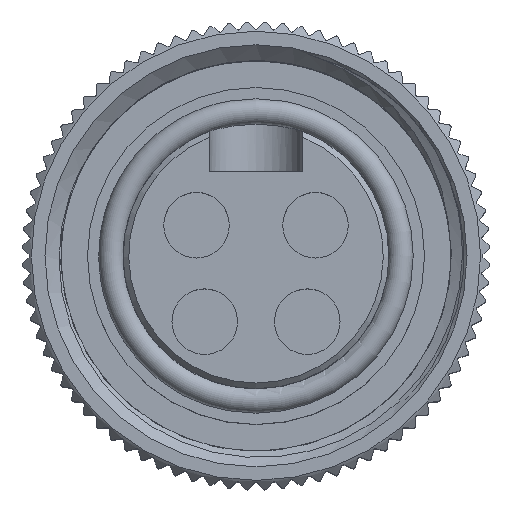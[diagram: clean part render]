
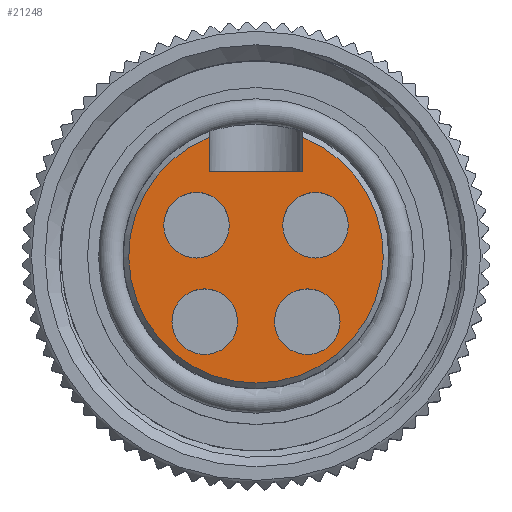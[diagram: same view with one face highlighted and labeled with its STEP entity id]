
A CAD part, top view. The second image highlights one B-rep face of the part: STEP entity #21248.
In plain terms, the highlighted planar face has unit normal (0, 0, 1).
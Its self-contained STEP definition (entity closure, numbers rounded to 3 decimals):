
#165 = VERTEX_POINT ( 'NONE', #5482 ) ;
#442 = VERTEX_POINT ( 'NONE', #2392 ) ;
#667 = CARTESIAN_POINT ( 'NONE',  ( -3.18, -0.12, 0. ) ) ;
#745 = CARTESIAN_POINT ( 'NONE',  ( 2.74, -5.27, 0. ) ) ;
#975 = CIRCLE ( 'NONE', #7828, 1.75 ) ;
#1098 = EDGE_CURVE ( 'NONE', #8888, #20153, #17066, .T. ) ;
#1123 = VECTOR ( 'NONE', #17652, 1000. ) ;
#2193 = CARTESIAN_POINT ( 'NONE',  ( 3.18, 1.63, 0. ) ) ;
#2392 = CARTESIAN_POINT ( 'NONE',  ( -2.74, -5.27, 0. ) ) ;
#2441 = EDGE_LOOP ( 'NONE', ( #12268 ) ) ;
#2719 = CARTESIAN_POINT ( 'NONE',  ( -2.5, 4.5, 0. ) ) ;
#3203 = AXIS2_PLACEMENT_3D ( 'NONE', #4580, #22542, #13314 ) ;
#3246 = DIRECTION ( 'NONE',  ( 0., 0., 1. ) ) ;
#3522 = LINE ( 'NONE', #22521, #12182 ) ;
#3920 = DIRECTION ( 'NONE',  ( 0., 0., 1. ) ) ;
#4096 = EDGE_LOOP ( 'NONE', ( #7625, #19778, #14727, #4191 ) ) ;
#4191 = ORIENTED_EDGE ( 'NONE', *, *, #13123, .F. ) ;
#4218 = ORIENTED_EDGE ( 'NONE', *, *, #18591, .F. ) ;
#4369 = VECTOR ( 'NONE', #9574, 1000. ) ;
#4580 = CARTESIAN_POINT ( 'NONE',  ( 0., 6.8, 0. ) ) ;
#4886 = CARTESIAN_POINT ( 'NONE',  ( -2.5, 4.5, 0. ) ) ;
#5277 = EDGE_LOOP ( 'NONE', ( #19697 ) ) ;
#5353 = DIRECTION ( 'NONE',  ( 0., 0., 1. ) ) ;
#5482 = CARTESIAN_POINT ( 'NONE',  ( 2.5, 4.5, 0. ) ) ;
#5552 = CARTESIAN_POINT ( 'NONE',  ( -2.5, 6.324, 0. ) ) ;
#5765 = AXIS2_PLACEMENT_3D ( 'NONE', #10753, #5353, #23022 ) ;
#5932 = DIRECTION ( 'NONE',  ( 0., 0., 1. ) ) ;
#6445 = PLANE ( 'NONE',  #3203 ) ;
#6493 = CIRCLE ( 'NONE', #20525, 1.75 ) ;
#7237 = FACE_BOUND ( 'NONE', #2441, .T. ) ;
#7625 = ORIENTED_EDGE ( 'NONE', *, *, #12542, .F. ) ;
#7804 = DIRECTION ( 'NONE',  ( 0., -1., 0. ) ) ;
#7828 = AXIS2_PLACEMENT_3D ( 'NONE', #19436, #15817, #12011 ) ;
#8888 = VERTEX_POINT ( 'NONE', #5552 ) ;
#9263 = AXIS2_PLACEMENT_3D ( 'NONE', #16566, #5932, #7804 ) ;
#9559 = EDGE_LOOP ( 'NONE', ( #10293 ) ) ;
#9574 = DIRECTION ( 'NONE',  ( 1., 0., 0. ) ) ;
#10293 = ORIENTED_EDGE ( 'NONE', *, *, #11140, .F. ) ;
#10753 = CARTESIAN_POINT ( 'NONE',  ( 0., 0., 0. ) ) ;
#11082 = VERTEX_POINT ( 'NONE', #745 ) ;
#11140 = EDGE_CURVE ( 'NONE', #442, #442, #975, .T. ) ;
#11236 = CIRCLE ( 'NONE', #14995, 1.75 ) ;
#11995 = FACE_BOUND ( 'NONE', #9559, .T. ) ;
#12011 = DIRECTION ( 'NONE',  ( 0., -1., 0. ) ) ;
#12182 = VECTOR ( 'NONE', #17756, 1000. ) ;
#12268 = ORIENTED_EDGE ( 'NONE', *, *, #17171, .F. ) ;
#12542 = EDGE_CURVE ( 'NONE', #12748, #165, #18062, .T. ) ;
#12748 = VERTEX_POINT ( 'NONE', #4886 ) ;
#13123 = EDGE_CURVE ( 'NONE', #165, #20153, #3522, .T. ) ;
#13314 = DIRECTION ( 'NONE',  ( -1., 0., 0. ) ) ;
#13963 = LINE ( 'NONE', #19450, #1123 ) ;
#14083 = CARTESIAN_POINT ( 'NONE',  ( 2.5, 6.324, 0. ) ) ;
#14727 = ORIENTED_EDGE ( 'NONE', *, *, #1098, .T. ) ;
#14995 = AXIS2_PLACEMENT_3D ( 'NONE', #22932, #3246, #23013 ) ;
#15817 = DIRECTION ( 'NONE',  ( 0., 0., 1. ) ) ;
#16566 = CARTESIAN_POINT ( 'NONE',  ( -3.18, 1.63, 0. ) ) ;
#16708 = EDGE_CURVE ( 'NONE', #19191, #19191, #6493, .T. ) ;
#17066 = CIRCLE ( 'NONE', #5765, 6.8 ) ;
#17171 = EDGE_CURVE ( 'NONE', #21444, #21444, #22150, .T. ) ;
#17192 = EDGE_LOOP ( 'NONE', ( #4218 ) ) ;
#17652 = DIRECTION ( 'NONE',  ( 0., -1., 0. ) ) ;
#17756 = DIRECTION ( 'NONE',  ( 0., 1., 0. ) ) ;
#18062 = LINE ( 'NONE', #2719, #4369 ) ;
#18445 = DIRECTION ( 'NONE',  ( 0., -1., 0. ) ) ;
#18477 = CARTESIAN_POINT ( 'NONE',  ( 3.18, -0.12, 0. ) ) ;
#18591 = EDGE_CURVE ( 'NONE', #11082, #11082, #11236, .T. ) ;
#19191 = VERTEX_POINT ( 'NONE', #18477 ) ;
#19268 = FACE_OUTER_BOUND ( 'NONE', #4096, .T. ) ;
#19436 = CARTESIAN_POINT ( 'NONE',  ( -2.74, -3.52, 0. ) ) ;
#19450 = CARTESIAN_POINT ( 'NONE',  ( -2.5, 6.645, 0. ) ) ;
#19697 = ORIENTED_EDGE ( 'NONE', *, *, #16708, .F. ) ;
#19758 = EDGE_CURVE ( 'NONE', #8888, #12748, #13963, .T. ) ;
#19778 = ORIENTED_EDGE ( 'NONE', *, *, #19758, .F. ) ;
#20153 = VERTEX_POINT ( 'NONE', #14083 ) ;
#20525 = AXIS2_PLACEMENT_3D ( 'NONE', #2193, #3920, #18445 ) ;
#21238 = FACE_BOUND ( 'NONE', #17192, .T. ) ;
#21248 = ADVANCED_FACE ( 'NONE', ( #11995, #21238, #7237, #21511, #19268 ), #6445, .F. ) ;
#21444 = VERTEX_POINT ( 'NONE', #667 ) ;
#21511 = FACE_BOUND ( 'NONE', #5277, .T. ) ;
#22150 = CIRCLE ( 'NONE', #9263, 1.75 ) ;
#22521 = CARTESIAN_POINT ( 'NONE',  ( 2.5, 4.5, 0. ) ) ;
#22542 = DIRECTION ( 'NONE',  ( 0., 0., -1. ) ) ;
#22932 = CARTESIAN_POINT ( 'NONE',  ( 2.74, -3.52, 0. ) ) ;
#23013 = DIRECTION ( 'NONE',  ( 0., -1., 0. ) ) ;
#23022 = DIRECTION ( 'NONE',  ( 1., 0., 0. ) ) ;
